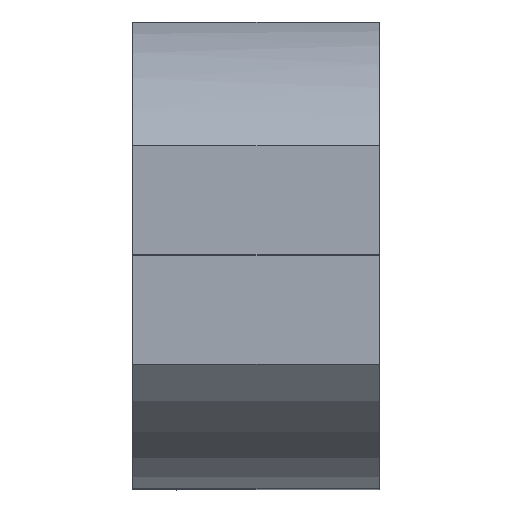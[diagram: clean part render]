
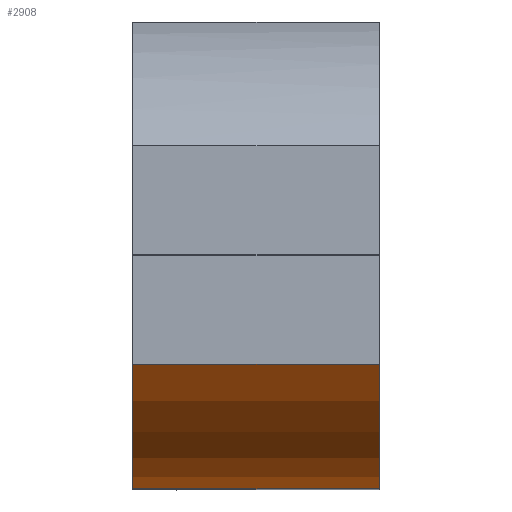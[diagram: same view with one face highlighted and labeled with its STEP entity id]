
A CAD part, top view. The second image highlights one B-rep face of the part: STEP entity #2908.
In plain terms, the highlighted cylindrical face has radius 20 mm (diameter 40 mm), a partial arc.
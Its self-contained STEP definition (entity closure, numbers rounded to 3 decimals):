
#186 = CARTESIAN_POINT ( 'NONE',  ( 8.45, -15.998, 32. ) ) ;
#187 = CARTESIAN_POINT ( 'NONE',  ( 8.45, -7.498, 45. ) ) ;
#194 = CARTESIAN_POINT ( 'NONE',  ( -8.45, -7.498, 45. ) ) ;
#195 = CARTESIAN_POINT ( 'NONE',  ( -8.45, -15.998, 32. ) ) ;
#562 = DIRECTION ( 'NONE',  ( 0., 0.964, -0.264 ) ) ;
#563 = DIRECTION ( 'NONE',  ( 1., 0., 0. ) ) ;
#565 = CARTESIAN_POINT ( 'NONE',  ( -8.45, 3.677, 28.414 ) ) ;
#701 = EDGE_CURVE ( 'NONE', #3305, #3297, #1919, .T. ) ;
#702 = EDGE_CURVE ( 'NONE', #3304, #3305, #1916, .T. ) ;
#704 = EDGE_CURVE ( 'NONE', #3298, #3304, #1914, .T. ) ;
#714 = EDGE_CURVE ( 'NONE', #3297, #3298, #1894, .T. ) ;
#785 = AXIS2_PLACEMENT_3D ( 'NONE', #982, #981, #980 ) ;
#787 = AXIS2_PLACEMENT_3D ( 'NONE', #948, #947, #946 ) ;
#848 = AXIS2_PLACEMENT_3D ( 'NONE', #565, #563, #562 ) ;
#946 = DIRECTION ( 'NONE',  ( 0., 0.964, -0.264 ) ) ;
#947 = DIRECTION ( 'NONE',  ( -1., 0., 0. ) ) ;
#948 = CARTESIAN_POINT ( 'NONE',  ( -8.45, 3.677, 28.414 ) ) ;
#975 = DIRECTION ( 'NONE',  ( 1., 0., 0. ) ) ;
#976 = CARTESIAN_POINT ( 'NONE',  ( 0., -7.498, 45. ) ) ;
#980 = DIRECTION ( 'NONE',  ( 0., 0.964, -0.264 ) ) ;
#981 = DIRECTION ( 'NONE',  ( 1., 0., 0. ) ) ;
#982 = CARTESIAN_POINT ( 'NONE',  ( 8.45, 3.677, 28.414 ) ) ;
#983 = DIRECTION ( 'NONE',  ( -1., 0., 0. ) ) ;
#984 = CARTESIAN_POINT ( 'NONE',  ( 0., -15.998, 32. ) ) ;
#1690 = CYLINDRICAL_SURFACE ( 'NONE', #848, 20. ) ;
#1691 = FACE_OUTER_BOUND ( 'NONE', #2040, .T. ) ;
#1894 = CIRCLE ( 'NONE', #787, 20. ) ;
#1913 = VECTOR ( 'NONE', #975, 1000. ) ;
#1914 = LINE ( 'NONE', #976, #1913 ) ;
#1916 = CIRCLE ( 'NONE', #785, 20. ) ;
#1918 = VECTOR ( 'NONE', #983, 1000. ) ;
#1919 = LINE ( 'NONE', #984, #1918 ) ;
#2040 = EDGE_LOOP ( 'NONE', ( #2418, #2417, #2416, #2415 ) ) ;
#2415 = ORIENTED_EDGE ( 'NONE', *, *, #701, .F. ) ;
#2416 = ORIENTED_EDGE ( 'NONE', *, *, #714, .F. ) ;
#2417 = ORIENTED_EDGE ( 'NONE', *, *, #704, .F. ) ;
#2418 = ORIENTED_EDGE ( 'NONE', *, *, #702, .F. ) ;
#2908 = ADVANCED_FACE ( 'NONE', ( #1691 ), #1690, .T. ) ;
#3297 = VERTEX_POINT ( 'NONE', #195 ) ;
#3298 = VERTEX_POINT ( 'NONE', #194 ) ;
#3304 = VERTEX_POINT ( 'NONE', #187 ) ;
#3305 = VERTEX_POINT ( 'NONE', #186 ) ;
